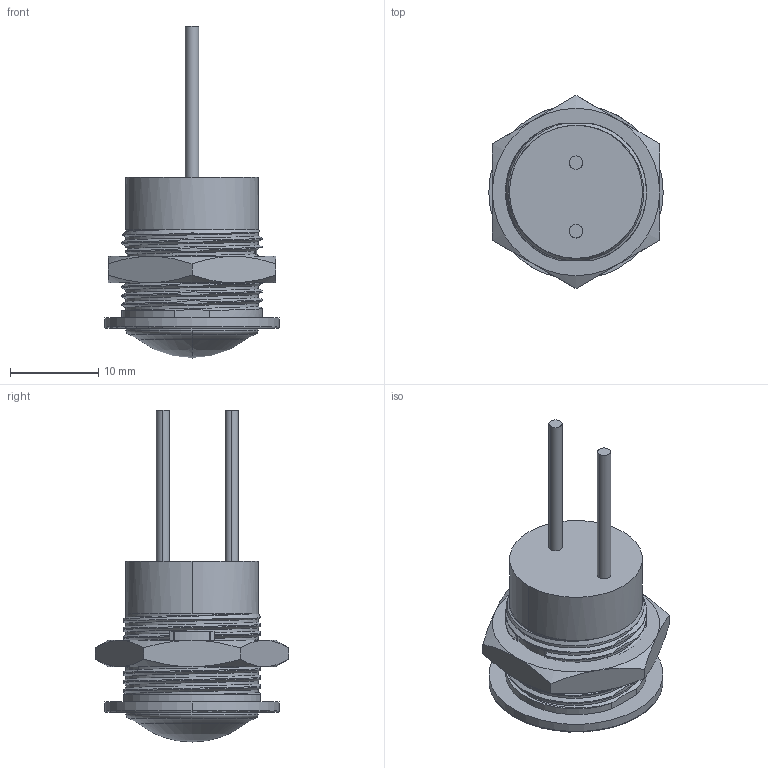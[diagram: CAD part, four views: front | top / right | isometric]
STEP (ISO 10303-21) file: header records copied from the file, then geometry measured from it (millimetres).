
FILE_DESCRIPTION((''),'2;1');
FILE_NAME('IAR3F1X00_SW0001','2015-09-07T',('brevel'),(''),'CREO PARAMETRIC BY PTC INC, 2014440','CREO PARAMETRIC BY PTC INC, 2014440','');
FILE_SCHEMA(('CONFIG_CONTROL_DESIGN'));
Length unit declared in the file: millimetre
Products named in the file (1): IAR3F1X00_SW0001
Bounding box: 19.8 x 21.94 x 37.7 mm (x, y, z)
Surface area: 3465.9 mm2 (no closed solid volume)
Topology: 0 solids, 7 shells, 113 faces, 379 edges, 269 vertices
Faces by surface type: plane 42, cylinder 34, cone 15, bspline 14, torus 6, sphere 2
Entity records: 8718 total; most frequent: CARTESIAN_POINT 5732, ORIENTED_EDGE 658, DIRECTION 497, EDGE_CURVE 377, VERTEX_POINT 269, AXIS2_PLACEMENT_3D 187, B_SPLINE_CURVE_WITH_KNOTS 166, VECTOR 123
